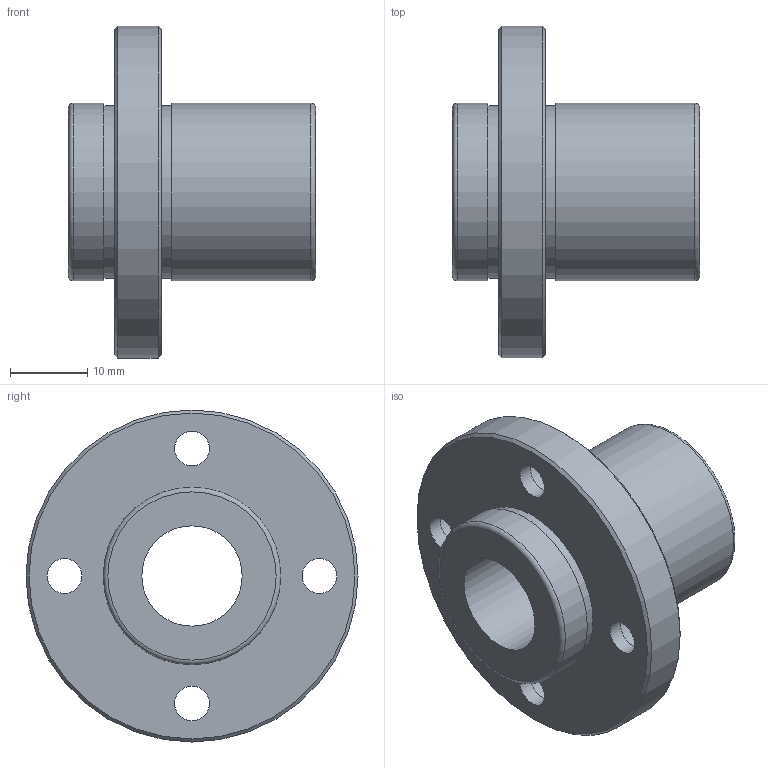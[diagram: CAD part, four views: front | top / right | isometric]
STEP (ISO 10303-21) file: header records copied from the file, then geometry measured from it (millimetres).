
FILE_DESCRIPTION(('STEP AP203'),'1');
FILE_NAME('//192.168.1.1/share/s-4 技術開発/s-4-4_CAD/s-4-4-3_見直し済み/002 修正済み/NFID-V/NFID-V_TOP/NFID-13VUU.step','2022-03-08T02:19:17',(' '),(' '),'Spatial InterOp 3D',' ',' ');
FILE_SCHEMA(('CONFIG_CONTROL_DESIGN'));
Length unit declared in the file: millimetre
Products named in the file (1): 1
Bounding box: 32 x 43 x 43 mm (x, y, z)
Volume: 14320.5 mm3; surface area: 6993.9 mm2
Topology: 1 solids, 1 shells, 28 faces, 58 edges, 40 vertices
Faces by surface type: cylinder 14, plane 10, torus 2, cone 2
Full cylindrical faces by diameter (mm): 4.5 x4, 7.5 x4, 13 x1, 22.3 x2, 23 x2, 43 x1
Entity records: 668 total; most frequent: DIRECTION 122, CARTESIAN_POINT 93, EDGE_LOOP 64, ORIENTED_EDGE 64, AXIS2_PLACEMENT_3D 61, FACE_OUTER_BOUND 44, EDGE_CURVE 32, VERTEX_POINT 32
